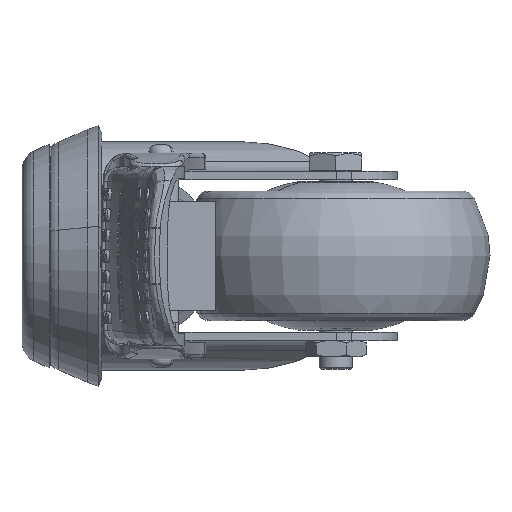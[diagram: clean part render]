
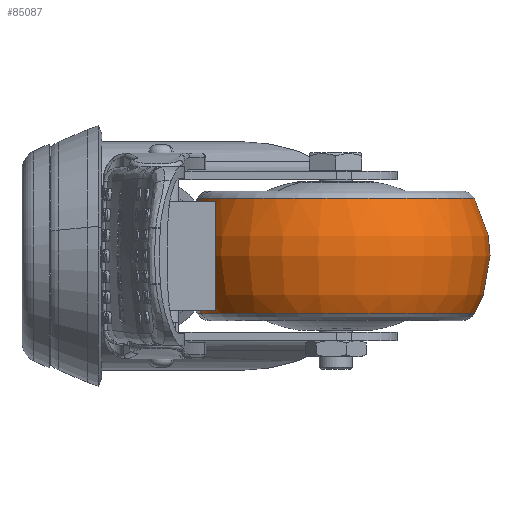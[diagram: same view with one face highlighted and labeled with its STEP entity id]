
A CAD part, left-side view. The second image highlights one B-rep face of the part: STEP entity #85087.
In plain terms, the highlighted toroidal (fillet/blend) face has major radius 9.5 mm and minor radius 28 mm.
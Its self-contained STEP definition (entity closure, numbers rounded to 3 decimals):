
#23041 = CARTESIAN_POINT ( 'NONE',  ( -42.634, 14.176, -13.059 ) ) ;
#23042 = CARTESIAN_POINT ( 'NONE',  ( -25.888, -51.211, -13.059 ) ) ;
#23043 = CARTESIAN_POINT ( 'NONE',  ( -25.888, -51.211, 14.941 ) ) ;
#23044 = CARTESIAN_POINT ( 'NONE',  ( -42.634, 14.176, 14.941 ) ) ;
#40162 = CARTESIAN_POINT ( 'NONE',  ( -34.261, -18.518, -13.059 ) ) ;
#40163 = DIRECTION ( 'NONE',  ( 0., 0., 1. ) ) ;
#40164 = DIRECTION ( 'NONE',  ( -0.248, 0.969, 0. ) ) ;
#40168 = CARTESIAN_POINT ( 'NONE',  ( -31.904, -27.721, 0.941 ) ) ;
#40169 = DIRECTION ( 'NONE',  ( -0.969, -0.248, 0. ) ) ;
#40170 = DIRECTION ( 'NONE',  ( 0.248, -0.969, 0. ) ) ;
#40171 = CARTESIAN_POINT ( 'NONE',  ( -34.261, -18.518, 14.941 ) ) ;
#40172 = DIRECTION ( 'NONE',  ( 0., 0., 1. ) ) ;
#40173 = DIRECTION ( 'NONE',  ( -0.248, 0.969, 0. ) ) ;
#40175 = CARTESIAN_POINT ( 'NONE',  ( -36.618, -9.315, 0.941 ) ) ;
#40176 = DIRECTION ( 'NONE',  ( 0.969, 0.248, 0. ) ) ;
#40177 = DIRECTION ( 'NONE',  ( -0.248, 0.969, 0. ) ) ;
#41068 = CIRCLE ( 'NONE', #41075, 33.749 ) ;
#41073 = CIRCLE ( 'NONE', #41082, 28. ) ;
#41075 = AXIS2_PLACEMENT_3D ( 'NONE', #40162, #40163, #40164 ) ;
#41077 = CIRCLE ( 'NONE', #41091, 28. ) ;
#41081 = CIRCLE ( 'NONE', #41087, 33.749 ) ;
#41082 = AXIS2_PLACEMENT_3D ( 'NONE', #40168, #40169, #40170 ) ;
#41087 = AXIS2_PLACEMENT_3D ( 'NONE', #40171, #40172, #40173 ) ;
#41091 = AXIS2_PLACEMENT_3D ( 'NONE', #40175, #40176, #40177 ) ;
#50537 = ORIENTED_EDGE ( 'NONE', *, *, #76376, .T. ) ;
#50538 = ORIENTED_EDGE ( 'NONE', *, *, #76378, .T. ) ;
#50539 = ORIENTED_EDGE ( 'NONE', *, *, #76379, .F. ) ;
#50540 = ORIENTED_EDGE ( 'NONE', *, *, #76380, .F. ) ;
#66338 = TOROIDAL_SURFACE ( 'NONE', #66351, 9.5, 28. ) ;
#66351 = AXIS2_PLACEMENT_3D ( 'NONE', #67514, #67511, #67517 ) ;
#67511 = DIRECTION ( 'NONE',  ( 0., 0., 1. ) ) ;
#67512 = FACE_OUTER_BOUND ( 'NONE', #84142, .T. ) ;
#67514 = CARTESIAN_POINT ( 'NONE',  ( -34.261, -18.518, 0.941 ) ) ;
#67517 = DIRECTION ( 'NONE',  ( -0.248, 0.969, 0. ) ) ;
#76376 = EDGE_CURVE ( 'NONE', #77940, #77941, #41068, .T. ) ;
#76378 = EDGE_CURVE ( 'NONE', #77941, #77942, #41073, .T. ) ;
#76379 = EDGE_CURVE ( 'NONE', #77943, #77942, #41081, .T. ) ;
#76380 = EDGE_CURVE ( 'NONE', #77940, #77943, #41077, .T. ) ;
#77940 = VERTEX_POINT ( 'NONE', #23041 ) ;
#77941 = VERTEX_POINT ( 'NONE', #23042 ) ;
#77942 = VERTEX_POINT ( 'NONE', #23043 ) ;
#77943 = VERTEX_POINT ( 'NONE', #23044 ) ;
#84142 = EDGE_LOOP ( 'NONE', ( #50537, #50538, #50539, #50540 ) ) ;
#85087 = ADVANCED_FACE ( 'NONE', ( #67512 ), #66338, .T. ) ;
